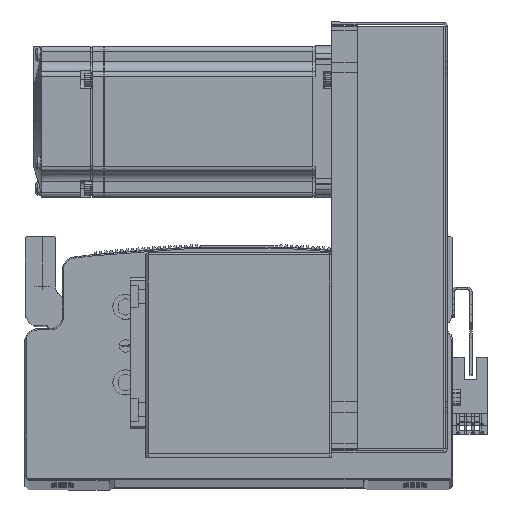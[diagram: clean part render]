
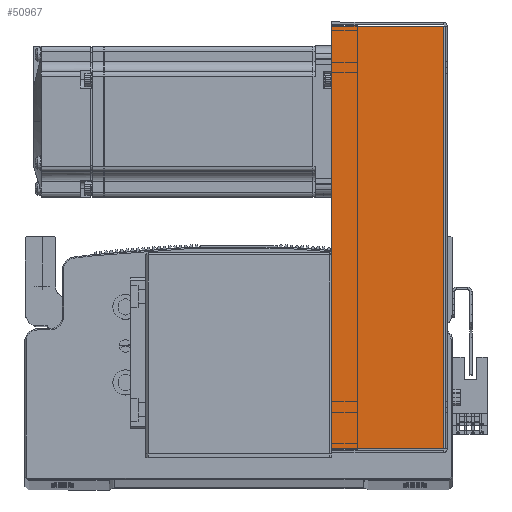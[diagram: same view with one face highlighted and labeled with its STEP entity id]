
A CAD part, top view. The second image highlights one B-rep face of the part: STEP entity #50967.
In plain terms, the highlighted planar face has unit normal (0, 0, 1).
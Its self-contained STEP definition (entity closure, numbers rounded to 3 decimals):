
#21521 = VERTEX_POINT ( 'NONE', #41351 ) ;
#21522 = VERTEX_POINT ( 'NONE', #41361 ) ;
#21523 = VERTEX_POINT ( 'NONE', #41353 ) ;
#21531 = VERTEX_POINT ( 'NONE', #41346 ) ;
#39752 = CARTESIAN_POINT ( 'NONE',  ( 0., 0.737, 40.5 ) ) ;
#39845 = DIRECTION ( 'NONE',  ( -1., 0., 0. ) ) ;
#40195 = DIRECTION ( 'NONE',  ( -1., 0., 0. ) ) ;
#40241 = CARTESIAN_POINT ( 'NONE',  ( -84.5, 45., 40.5 ) ) ;
#40313 = CARTESIAN_POINT ( 'NONE',  ( 83.793, 0., 40.5 ) ) ;
#40353 = DIRECTION ( 'NONE',  ( 0., 1., 0. ) ) ;
#40478 = DIRECTION ( 'NONE',  ( 0., 1., 0. ) ) ;
#40534 = CARTESIAN_POINT ( 'NONE',  ( -83.793, 0., 40.5 ) ) ;
#41346 = CARTESIAN_POINT ( 'NONE',  ( 83.793, 0.737, 40.5 ) ) ;
#41351 = CARTESIAN_POINT ( 'NONE',  ( -83.793, 0.737, 40.5 ) ) ;
#41353 = CARTESIAN_POINT ( 'NONE',  ( -83.793, 45., 40.5 ) ) ;
#41361 = CARTESIAN_POINT ( 'NONE',  ( 83.793, 45., 40.5 ) ) ;
#43576 = ORIENTED_EDGE ( 'NONE', *, *, #66926, .F. ) ;
#45831 = ORIENTED_EDGE ( 'NONE', *, *, #66885, .T. ) ;
#45842 = ORIENTED_EDGE ( 'NONE', *, *, #66832, .T. ) ;
#45855 = ORIENTED_EDGE ( 'NONE', *, *, #66709, .F. ) ;
#46434 = LINE ( 'NONE', #39752, #46461 ) ;
#46461 = VECTOR ( 'NONE', #39845, 1000. ) ;
#46596 = LINE ( 'NONE', #40313, #46606 ) ;
#46599 = LINE ( 'NONE', #40241, #46613 ) ;
#46606 = VECTOR ( 'NONE', #40353, 1000. ) ;
#46613 = VECTOR ( 'NONE', #40195, 1000. ) ;
#46645 = VECTOR ( 'NONE', #40478, 1000. ) ;
#46653 = LINE ( 'NONE', #40534, #46645 ) ;
#50967 = ADVANCED_FACE ( 'NONE', ( #74571 ), #63828, .F. ) ;
#58110 = AXIS2_PLACEMENT_3D ( 'NONE', #63823, #63847, #63866 ) ;
#63823 = CARTESIAN_POINT ( 'NONE',  ( 0., 0., 40.5 ) ) ;
#63828 = PLANE ( 'NONE',  #58110 ) ;
#63847 = DIRECTION ( 'NONE',  ( 0., 0., -1. ) ) ;
#63866 = DIRECTION ( 'NONE',  ( -1., 0., 0. ) ) ;
#66709 = EDGE_CURVE ( 'NONE', #21531, #21521, #46434, .T. ) ;
#66832 = EDGE_CURVE ( 'NONE', #21522, #21523, #46599, .T. ) ;
#66885 = EDGE_CURVE ( 'NONE', #21531, #21522, #46596, .T. ) ;
#66926 = EDGE_CURVE ( 'NONE', #21521, #21523, #46653, .T. ) ;
#74571 = FACE_OUTER_BOUND ( 'NONE', #88336, .T. ) ;
#88336 = EDGE_LOOP ( 'NONE', ( #45855, #45831, #45842, #43576 ) ) ;
